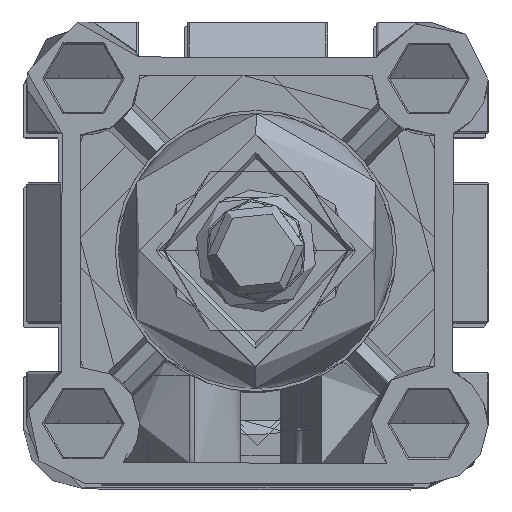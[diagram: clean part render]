
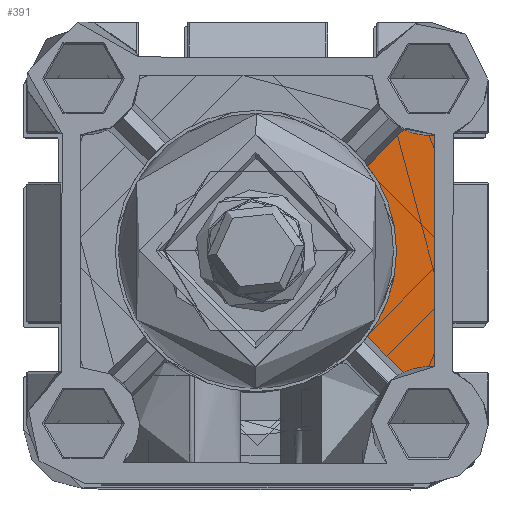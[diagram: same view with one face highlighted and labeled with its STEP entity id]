
A CAD part, top view. The second image highlights one B-rep face of the part: STEP entity #391.
In plain terms, the highlighted planar face has unit normal (0, 0, 1) as drawn and (0, 0, -1) by its records, which use the part's own axes.
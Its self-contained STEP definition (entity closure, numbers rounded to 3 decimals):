
#391 = ADVANCED_FACE ( 'NONE', ( #12079 ), #18704, .T. ) ;
#571 = CIRCLE ( 'NONE', #12189, 23. ) ;
#878 = CARTESIAN_POINT ( 'NONE',  ( 8.123, 12.433, 33. ) ) ;
#1368 = VERTEX_POINT ( 'NONE', #8806 ) ;
#2503 = CARTESIAN_POINT ( 'NONE',  ( 4., 4., 33. ) ) ;
#2532 = DIRECTION ( 'NONE',  ( 0., 0., 1. ) ) ;
#2582 = DIRECTION ( 'NONE',  ( -1., 0., 0. ) ) ;
#2706 = CIRCLE ( 'NONE', #22356, 23. ) ;
#3355 = ORIENTED_EDGE ( 'NONE', *, *, #13283, .T. ) ;
#3914 = CARTESIAN_POINT ( 'NONE',  ( 8.021, 52.169, 33. ) ) ;
#4077 = CARTESIAN_POINT ( 'NONE',  ( 3., 32.301, 33. ) ) ;
#4638 = ORIENTED_EDGE ( 'NONE', *, *, #12558, .T. ) ;
#5139 = VECTOR ( 'NONE', #20916, 1000. ) ;
#5573 = ORIENTED_EDGE ( 'NONE', *, *, #8086, .T. ) ;
#5771 = VERTEX_POINT ( 'NONE', #15478 ) ;
#5804 = AXIS2_PLACEMENT_3D ( 'NONE', #18484, #18757, #18785 ) ;
#5979 = EDGE_LOOP ( 'NONE', ( #7012, #13386, #4638, #3355, #17592, #16230, #5573 ) ) ;
#6073 = DIRECTION ( 'NONE',  ( 0.707, -0.707, 0. ) ) ;
#6818 = AXIS2_PLACEMENT_3D ( 'NONE', #18417, #21869, #11319 ) ;
#7012 = ORIENTED_EDGE ( 'NONE', *, *, #8709, .T. ) ;
#7179 = VERTEX_POINT ( 'NONE', #18261 ) ;
#7648 = CIRCLE ( 'NONE', #21604, 9.386 ) ;
#8086 = EDGE_CURVE ( 'NONE', #7179, #22111, #14196, .T. ) ;
#8114 = EDGE_CURVE ( 'NONE', #5771, #7179, #12463, .T. ) ;
#8709 = EDGE_CURVE ( 'NONE', #22111, #12987, #19368, .T. ) ;
#8806 = CARTESIAN_POINT ( 'NONE',  ( 13.975, 18.285, 33. ) ) ;
#9919 = LINE ( 'NONE', #20812, #5139 ) ;
#10698 = DIRECTION ( 'NONE',  ( 0., 0., 1. ) ) ;
#11238 = DIRECTION ( 'NONE',  ( 0., 1., 0. ) ) ;
#11319 = DIRECTION ( 'NONE',  ( -1., 0., 0. ) ) ;
#11596 = CARTESIAN_POINT ( 'NONE',  ( 13.975, 46.215, 33. ) ) ;
#12079 = FACE_OUTER_BOUND ( 'NONE', #5979, .T. ) ;
#12189 = AXIS2_PLACEMENT_3D ( 'NONE', #22242, #10698, #21611 ) ;
#12463 = LINE ( 'NONE', #4077, #21250 ) ;
#12558 = EDGE_CURVE ( 'NONE', #15084, #1368, #571, .T. ) ;
#12698 = EDGE_CURVE ( 'NONE', #14921, #5771, #7648, .T. ) ;
#12822 = CARTESIAN_POINT ( 'NONE',  ( 9.25, 32.25, 33. ) ) ;
#12987 = VERTEX_POINT ( 'NONE', #11596 ) ;
#13144 = EDGE_CURVE ( 'NONE', #12987, #15084, #2706, .T. ) ;
#13283 = EDGE_CURVE ( 'NONE', #1368, #14921, #9919, .T. ) ;
#13386 = ORIENTED_EDGE ( 'NONE', *, *, #13144, .T. ) ;
#14196 = CIRCLE ( 'NONE', #6818, 9.25 ) ;
#14921 = VERTEX_POINT ( 'NONE', #878 ) ;
#15084 = VERTEX_POINT ( 'NONE', #12822 ) ;
#15107 = CARTESIAN_POINT ( 'NONE',  ( 8.021, 52.169, 33. ) ) ;
#15478 = CARTESIAN_POINT ( 'NONE',  ( 3., 13.333, 33. ) ) ;
#16230 = ORIENTED_EDGE ( 'NONE', *, *, #8114, .T. ) ;
#17592 = ORIENTED_EDGE ( 'NONE', *, *, #12698, .T. ) ;
#17776 = CARTESIAN_POINT ( 'NONE',  ( 32.25, 32.25, 33. ) ) ;
#17806 = DIRECTION ( 'NONE',  ( 0., 0., 1. ) ) ;
#17842 = DIRECTION ( 'NONE',  ( -1., 0., 0. ) ) ;
#18261 = CARTESIAN_POINT ( 'NONE',  ( 3., 51.304, 33. ) ) ;
#18417 = CARTESIAN_POINT ( 'NONE',  ( 4., 60.5, 33. ) ) ;
#18484 = CARTESIAN_POINT ( 'NONE',  ( 14.041, 12.194, 33. ) ) ;
#18704 = PLANE ( 'NONE',  #5804 ) ;
#18757 = DIRECTION ( 'NONE',  ( 0., 0., -1. ) ) ;
#18785 = DIRECTION ( 'NONE',  ( -1., 0., 0. ) ) ;
#19368 = LINE ( 'NONE', #15107, #20438 ) ;
#20438 = VECTOR ( 'NONE', #6073, 1000. ) ;
#20812 = CARTESIAN_POINT ( 'NONE',  ( 11.049, 15.359, 33. ) ) ;
#20916 = DIRECTION ( 'NONE',  ( -0.707, -0.707, 0. ) ) ;
#21250 = VECTOR ( 'NONE', #11238, 1000. ) ;
#21604 = AXIS2_PLACEMENT_3D ( 'NONE', #2503, #2532, #2582 ) ;
#21611 = DIRECTION ( 'NONE',  ( -1., 0., 0. ) ) ;
#21869 = DIRECTION ( 'NONE',  ( 0., 0., 1. ) ) ;
#22111 = VERTEX_POINT ( 'NONE', #3914 ) ;
#22242 = CARTESIAN_POINT ( 'NONE',  ( 32.25, 32.25, 33. ) ) ;
#22356 = AXIS2_PLACEMENT_3D ( 'NONE', #17776, #17806, #17842 ) ;
